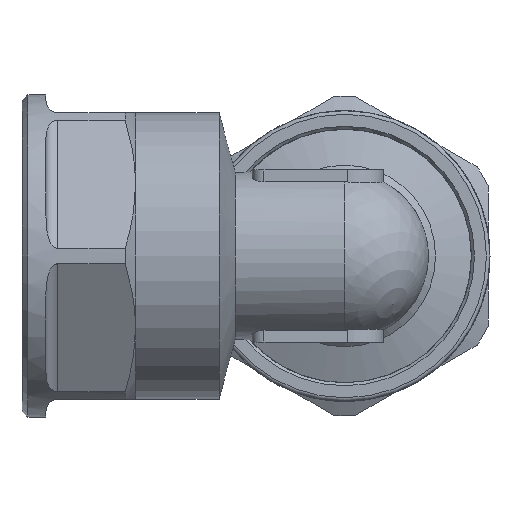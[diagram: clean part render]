
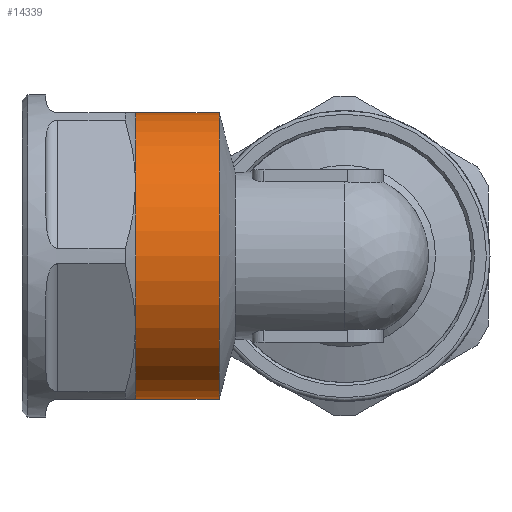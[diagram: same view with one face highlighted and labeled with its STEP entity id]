
A CAD part, left-side view. The second image highlights one B-rep face of the part: STEP entity #14339.
In plain terms, the highlighted cylindrical face has radius 12 mm (diameter 24 mm), a full revolution.
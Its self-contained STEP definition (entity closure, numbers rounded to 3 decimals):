
#993=FACE_OUTER_BOUND('',#1807,.T.);
#1807=EDGE_LOOP('',(#10454,#10455,#10456,#10457,#10458,#10459,#10460,#10461,
#10462,#10463,#10464));
#2516=CIRCLE('',#15046,12.);
#2517=CIRCLE('',#15047,12.);
#2553=CIRCLE('',#15193,12.);
#2557=CIRCLE('',#15198,12.);
#2558=CIRCLE('',#15199,12.);
#2559=CIRCLE('',#15201,12.);
#2562=CIRCLE('',#15205,12.);
#2564=CIRCLE('',#15208,12.);
#2567=CIRCLE('',#15213,12.);
#3979=LINE('',#22380,#5004);
#5004=VECTOR('',#16550,12.);
#5827=VERTEX_POINT('',#19680);
#5828=VERTEX_POINT('',#19681);
#6065=VERTEX_POINT('',#22284);
#6068=VERTEX_POINT('',#22296);
#6071=VERTEX_POINT('',#22308);
#6074=VERTEX_POINT('',#22320);
#6077=VERTEX_POINT('',#22332);
#6080=VERTEX_POINT('',#22344);
#6083=VERTEX_POINT('',#22360);
#7367=EDGE_CURVE('',#5827,#5828,#2516,.T.);
#7368=EDGE_CURVE('',#5828,#5827,#2517,.T.);
#7751=EDGE_CURVE('',#6077,#6074,#2553,.T.);
#7755=EDGE_CURVE('',#6074,#6083,#2557,.T.);
#7756=EDGE_CURVE('',#6083,#6071,#2558,.T.);
#7757=EDGE_CURVE('',#6080,#6077,#2559,.T.);
#7760=EDGE_CURVE('',#6071,#6068,#2562,.T.);
#7762=EDGE_CURVE('',#6068,#6065,#2564,.T.);
#7766=EDGE_CURVE('',#6065,#6080,#2567,.T.);
#7767=EDGE_CURVE('',#6083,#5828,#3979,.T.);
#10454=ORIENTED_EDGE('',*,*,#7766,.F.);
#10455=ORIENTED_EDGE('',*,*,#7762,.F.);
#10456=ORIENTED_EDGE('',*,*,#7760,.F.);
#10457=ORIENTED_EDGE('',*,*,#7756,.F.);
#10458=ORIENTED_EDGE('',*,*,#7767,.T.);
#10459=ORIENTED_EDGE('',*,*,#7368,.T.);
#10460=ORIENTED_EDGE('',*,*,#7367,.T.);
#10461=ORIENTED_EDGE('',*,*,#7767,.F.);
#10462=ORIENTED_EDGE('',*,*,#7755,.F.);
#10463=ORIENTED_EDGE('',*,*,#7751,.F.);
#10464=ORIENTED_EDGE('',*,*,#7757,.F.);
#14099=CYLINDRICAL_SURFACE('',#15212,12.);
#14339=ADVANCED_FACE('',(#993),#14099,.T.);
#15046=AXIS2_PLACEMENT_3D('',#19682,#15961,#15962);
#15047=AXIS2_PLACEMENT_3D('',#19683,#15963,#15964);
#15193=AXIS2_PLACEMENT_3D('',#22354,#16507,#16508);
#15198=AXIS2_PLACEMENT_3D('',#22361,#16517,#16518);
#15199=AXIS2_PLACEMENT_3D('',#22362,#16519,#16520);
#15201=AXIS2_PLACEMENT_3D('',#22364,#16523,#16524);
#15205=AXIS2_PLACEMENT_3D('',#22368,#16531,#16532);
#15208=AXIS2_PLACEMENT_3D('',#22371,#16537,#16538);
#15212=AXIS2_PLACEMENT_3D('',#22378,#16546,#16547);
#15213=AXIS2_PLACEMENT_3D('',#22379,#16548,#16549);
#15961=DIRECTION('center_axis',(0.,1.,0.));
#15962=DIRECTION('ref_axis',(1.,0.,0.));
#15963=DIRECTION('center_axis',(0.,1.,0.));
#15964=DIRECTION('ref_axis',(1.,0.,0.));
#16507=DIRECTION('center_axis',(0.,1.,0.));
#16508=DIRECTION('ref_axis',(1.,0.,0.));
#16517=DIRECTION('center_axis',(0.,1.,0.));
#16518=DIRECTION('ref_axis',(1.,0.,0.));
#16519=DIRECTION('center_axis',(0.,1.,0.));
#16520=DIRECTION('ref_axis',(1.,0.,0.));
#16523=DIRECTION('center_axis',(0.,1.,0.));
#16524=DIRECTION('ref_axis',(1.,0.,0.));
#16531=DIRECTION('center_axis',(0.,1.,0.));
#16532=DIRECTION('ref_axis',(1.,0.,0.));
#16537=DIRECTION('center_axis',(0.,1.,0.));
#16538=DIRECTION('ref_axis',(1.,0.,0.));
#16546=DIRECTION('center_axis',(0.,1.,0.));
#16547=DIRECTION('ref_axis',(-1.,0.,0.));
#16548=DIRECTION('center_axis',(0.,1.,0.));
#16549=DIRECTION('ref_axis',(1.,0.,0.));
#16550=DIRECTION('',(0.,-1.,0.));
#19680=CARTESIAN_POINT('',(-12.,10.5,0.));
#19681=CARTESIAN_POINT('',(12.,10.5,0.));
#19682=CARTESIAN_POINT('Origin',(0.,10.5,0.));
#19683=CARTESIAN_POINT('Origin',(0.,10.5,0.));
#22284=CARTESIAN_POINT('',(-10.392,17.5,-6.));
#22296=CARTESIAN_POINT('',(0.,17.5,-12.));
#22308=CARTESIAN_POINT('',(10.392,17.5,-6.));
#22320=CARTESIAN_POINT('',(10.392,17.5,6.));
#22332=CARTESIAN_POINT('',(0.,17.5,12.));
#22344=CARTESIAN_POINT('',(-10.392,17.5,6.));
#22354=CARTESIAN_POINT('Origin',(0.,17.5,0.));
#22360=CARTESIAN_POINT('',(12.,17.5,0.));
#22361=CARTESIAN_POINT('Origin',(0.,17.5,0.));
#22362=CARTESIAN_POINT('Origin',(0.,17.5,0.));
#22364=CARTESIAN_POINT('Origin',(0.,17.5,0.));
#22368=CARTESIAN_POINT('Origin',(0.,17.5,0.));
#22371=CARTESIAN_POINT('Origin',(0.,17.5,0.));
#22378=CARTESIAN_POINT('Origin',(0.,14.,0.));
#22379=CARTESIAN_POINT('Origin',(0.,17.5,0.));
#22380=CARTESIAN_POINT('',(12.,14.,0.));
